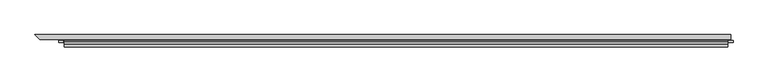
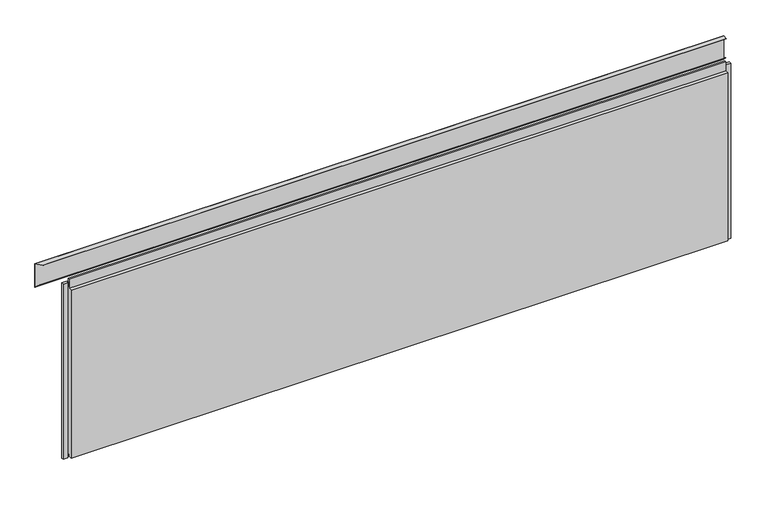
"""IFC4 building model written with IfcOpenShell, lengths in millimetres: plate geometry, Trimo_Qbiss Screen_Normal Panel-HORIZONTAL : HR - B."""

from ifc_helpers import new_model, si_unit, frame, origin, place, context, project, spatial, polyline, outline, extrude, faceted_brep, source, transform, mapped, element, save


def plate_674e5cc8(model_context):
    return source(origin(), model_context, "Body", "SolidModel", [
        faceted_brep([(1341.25, 85.8578644, 762.3421356), (1341.25, 100.0, 748.2), (1341.25, 100.0, 848.2), (1341.25, 80.0692781, 847.1554751), (1341.25, 80.0692781, 846.3543772), (1341.25, 99.2, 847.3569759), (1341.25, 99.2, 750.1313708), (1341.25, 86.4235498, 762.907821), (-1427.1078644, 85.8578644, 762.3421356), (-1441.25, 100.0, 748.2), (-1427.6735498, 86.4235498, 762.907821), (-1440.45, 99.2, 750.1313708), (-1440.45, 99.2, 847.3569759), (-1421.3192781, 80.0692781, 846.3543772), (-1421.3192781, 80.0692781, 847.1554751), (-1441.25, 100.0, 848.2)], [[[0, 1, 2, 3, 4, 5, 6, 7]], [[1, 0, 8, 9]], [[0, 7, 10, 8]], [[7, 6, 11, 10]], [[6, 5, 12, 11]], [[5, 4, 13, 12]], [[4, 3, 14, 13]], [[3, 2, 15, 14]], [[2, 1, 9, 15]], [[9, 8, 10, 11, 12, 13, 14, 15]]]),
        extrude(outline(polyline([(-1327.25, 76.5978162), (-1327.25, 67.8978162), (-1346.25, 67.8978162), (-1346.25, 76.5978162), (-1327.25, 76.5978162)])), frame((0.0, 0.0, -1.0), z_axis=(0.0, 0.0, 1.0), x_axis=(1.0, 0.0, 0.0)), (0.0, 0.0, 1.0), 748.2),
        extrude(outline(polyline([(1331.75, 67.8978162), (1331.75, 76.5978162), (1350.75, 76.5978162), (1350.75, 67.8978162), (1331.75, 67.8978162)])), frame((0.0, 0.0, -1.0), z_axis=(0.0, 0.0, 1.0), x_axis=(1.0, 0.0, 0.0)), (0.0, 0.0, 1.0), 748.2),
        extrude(outline(polyline([(1328.75, 76.0), (1328.75, 71.0), (-1324.25, 71.0), (-1324.25, 76.0), (1328.75, 76.0)])), frame((0.0, 0.0, 726.2), z_axis=(0.0, 0.0, 1.0), x_axis=(1.0, 0.0, 0.0)), (0.0, 0.0, 1.0), 21.0),
        extrude(outline(polyline([(71.0, 725.2), (100.0, 725.2), (100.0, 0.0), (72.0, 0.0), (72.0, 15.5), (62.0, 15.5), (62.0, 7.0), (50.0, 7.0), (50.0, 725.2), (63.0, 725.2), (63.0, 762.7), (71.0, 762.7), (71.0, 725.2)])), frame((-1324.25, 0.0, 0.0), z_axis=(1.0, 0.0, 0.0), x_axis=(0.0, 1.0, 0.0)), (0.0, 0.0, 1.0), 2653.0),
    ])


if __name__ == "__main__":
    model = new_model("IFC4")
    model_context = context("Model", 3, world=origin())
    ifc_project = project(units=[si_unit("LENGTHUNIT", "METRE", prefix="MILLI")], contexts=[model_context])
    site = spatial("IfcSite", under=ifc_project)
    building = spatial("IfcBuilding", under=site)
    placement = place(None, origin())
    plate_shape = plate_674e5cc8(model_context)
    element("IfcPlate", 1, ObjectType="Trimo_Qbiss Screen_Normal Panel-HORIZONTAL : HR - B", at=placement, inside=building, context=model_context, shape_type="MappedRepresentation", body=[
        mapped(plate_shape, transform((0.0, 0.0, 0.0), x_axis=(1.0, 0.0, 0.0), y_axis=(0.0, 1.0, 0.0), z_axis=(0.0, 0.0, 1.0))),
    ])
    save(model, "model.ifc")
